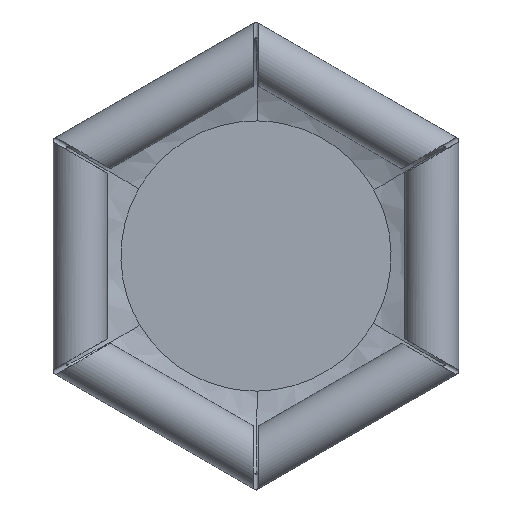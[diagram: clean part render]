
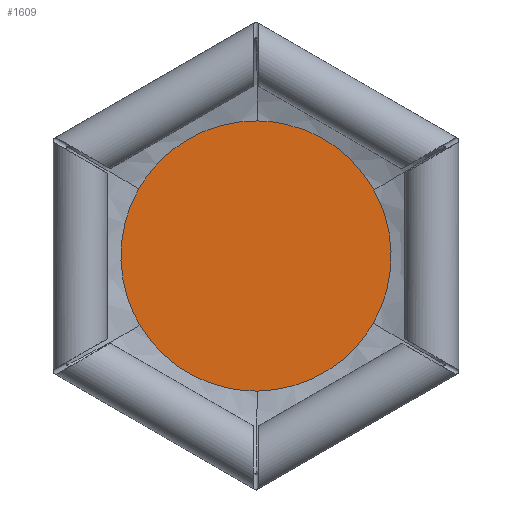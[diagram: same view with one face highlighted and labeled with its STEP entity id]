
A CAD part, left-side view. The second image highlights one B-rep face of the part: STEP entity #1609.
In plain terms, the highlighted planar face has unit normal (-1, 0, 0).
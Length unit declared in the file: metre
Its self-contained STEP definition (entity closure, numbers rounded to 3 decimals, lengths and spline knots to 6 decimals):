
#25=B_SPLINE_CURVE_WITH_KNOTS('',3,(#2890,#2891,#2892,#2893,#2894,#2895,
#2896,#2897),.UNSPECIFIED.,.F.,.F.,(4,2,2,4),(0.,0.5,0.75,1.),
 .UNSPECIFIED.);
#28=B_SPLINE_CURVE_WITH_KNOTS('',3,(#2977,#2978,#2979,#2980,#2981,#2982,
#2983,#2984),.UNSPECIFIED.,.F.,.F.,(4,2,2,4),(0.,0.5,0.75,1.),
 .UNSPECIFIED.);
#30=B_SPLINE_CURVE_WITH_KNOTS('',3,(#3051,#3052,#3053,#3054,#3055,#3056,
#3057,#3058),.UNSPECIFIED.,.F.,.F.,(4,2,2,4),(0.,0.5,0.75,1.),
 .UNSPECIFIED.);
#31=B_SPLINE_CURVE_WITH_KNOTS('',3,(#3095,#3096,#3097,#3098,#3099,#3100),
 .UNSPECIFIED.,.F.,.F.,(4,2,4),(0.,0.5,1.),.UNSPECIFIED.);
#34=B_SPLINE_CURVE_WITH_KNOTS('',3,(#3190,#3191,#3192,#3193,#3194,#3195,
#3196,#3197),.UNSPECIFIED.,.F.,.F.,(4,2,2,4),(0.,0.5,0.75,1.),
 .UNSPECIFIED.);
#35=B_SPLINE_CURVE_WITH_KNOTS('',3,(#3246,#3247,#3248,#3249,#3250,#3251,
#3252,#3253),.UNSPECIFIED.,.F.,.F.,(4,2,2,4),(0.,0.5,0.75,1.),
 .UNSPECIFIED.);
#85=PLANE('',#1769);
#830=ORIENTED_EDGE('',*,*,#1098,.T.);
#831=ORIENTED_EDGE('',*,*,#1099,.T.);
#832=ORIENTED_EDGE('',*,*,#1095,.T.);
#833=ORIENTED_EDGE('',*,*,#1089,.T.);
#834=ORIENTED_EDGE('',*,*,#1092,.T.);
#835=ORIENTED_EDGE('',*,*,#1094,.T.);
#1089=EDGE_CURVE('',#1251,#1250,#25,.T.);
#1092=EDGE_CURVE('',#1250,#1252,#28,.T.);
#1094=EDGE_CURVE('',#1252,#1253,#30,.T.);
#1095=EDGE_CURVE('',#1254,#1251,#31,.T.);
#1098=EDGE_CURVE('',#1253,#1255,#34,.T.);
#1099=EDGE_CURVE('',#1255,#1254,#35,.T.);
#1250=VERTEX_POINT('',#2889);
#1251=VERTEX_POINT('',#2898);
#1252=VERTEX_POINT('',#2976);
#1253=VERTEX_POINT('',#3050);
#1254=VERTEX_POINT('',#3101);
#1255=VERTEX_POINT('',#3189);
#1407=EDGE_LOOP('',(#830,#831,#832,#833,#834,#835));
#1493=FACE_BOUND('',#1407,.T.);
#1609=ADVANCED_FACE('',(#1493),#85,.T.);
#1769=AXIS2_PLACEMENT_3D('',#3254,#2202,#2203);
#2202=DIRECTION('',(-1.,0.,0.));
#2203=DIRECTION('',(0.,0.,-1.));
#2889=CARTESIAN_POINT('',(-0.1156,-0.030028,-0.0058));
#2890=CARTESIAN_POINT('',(-0.1156,-0.032182,-0.007079));
#2891=CARTESIAN_POINT('',(-0.1156,-0.031967,-0.006696));
#2892=CARTESIAN_POINT('',(-0.1156,-0.031654,-0.006375));
#2893=CARTESIAN_POINT('',(-0.1156,-0.031088,-0.006038));
#2894=CARTESIAN_POINT('',(-0.1156,-0.030887,-0.005952));
#2895=CARTESIAN_POINT('',(-0.1156,-0.030464,-0.005834));
#2896=CARTESIAN_POINT('',(-0.1156,-0.030248,-0.005803));
#2897=CARTESIAN_POINT('',(-0.1156,-0.030028,-0.0058));
#2898=CARTESIAN_POINT('',(-0.1156,-0.032182,-0.007079));
#2976=CARTESIAN_POINT('',(-0.1156,-0.027832,-0.007056));
#2977=CARTESIAN_POINT('',(-0.1156,-0.030028,-0.0058));
#2978=CARTESIAN_POINT('',(-0.1156,-0.029584,-0.005795));
#2979=CARTESIAN_POINT('',(-0.1156,-0.029145,-0.005909));
#2980=CARTESIAN_POINT('',(-0.1156,-0.028567,-0.00624));
#2981=CARTESIAN_POINT('',(-0.1156,-0.028391,-0.006374));
#2982=CARTESIAN_POINT('',(-0.1156,-0.028077,-0.006688));
#2983=CARTESIAN_POINT('',(-0.1156,-0.027943,-0.006862));
#2984=CARTESIAN_POINT('',(-0.1156,-0.027832,-0.007056));
#3050=CARTESIAN_POINT('',(-0.1156,-0.027854,-0.009583));
#3051=CARTESIAN_POINT('',(-0.1156,-0.027832,-0.007056));
#3052=CARTESIAN_POINT('',(-0.1156,-0.027611,-0.007441));
#3053=CARTESIAN_POINT('',(-0.1156,-0.027496,-0.007879));
#3054=CARTESIAN_POINT('',(-0.1156,-0.027502,-0.008544));
#3055=CARTESIAN_POINT('',(-0.1156,-0.027533,-0.008763));
#3056=CARTESIAN_POINT('',(-0.1156,-0.027653,-0.00919));
#3057=CARTESIAN_POINT('',(-0.1156,-0.02774,-0.009392));
#3058=CARTESIAN_POINT('',(-0.1156,-0.027854,-0.009583));
#3095=CARTESIAN_POINT('',(-0.1156,-0.032168,-0.009546));
#3096=CARTESIAN_POINT('',(-0.1156,-0.032383,-0.009171));
#3097=CARTESIAN_POINT('',(-0.1156,-0.032497,-0.008746));
#3098=CARTESIAN_POINT('',(-0.1156,-0.032502,-0.007883));
#3099=CARTESIAN_POINT('',(-0.1156,-0.032393,-0.007457));
#3100=CARTESIAN_POINT('',(-0.1156,-0.032182,-0.007079));
#3101=CARTESIAN_POINT('',(-0.1156,-0.032168,-0.009546));
#3189=CARTESIAN_POINT('',(-0.1156,-0.030019,-0.0108));
#3190=CARTESIAN_POINT('',(-0.1156,-0.027854,-0.009583));
#3191=CARTESIAN_POINT('',(-0.1156,-0.028078,-0.009957));
#3192=CARTESIAN_POINT('',(-0.1156,-0.028396,-0.010266));
#3193=CARTESIAN_POINT('',(-0.1156,-0.028964,-0.010586));
#3194=CARTESIAN_POINT('',(-0.1156,-0.029165,-0.010666));
#3195=CARTESIAN_POINT('',(-0.1156,-0.029587,-0.010775));
#3196=CARTESIAN_POINT('',(-0.1156,-0.029801,-0.010802));
#3197=CARTESIAN_POINT('',(-0.1156,-0.030019,-0.0108));
#3246=CARTESIAN_POINT('',(-0.1156,-0.030019,-0.0108));
#3247=CARTESIAN_POINT('',(-0.1156,-0.030455,-0.010797));
#3248=CARTESIAN_POINT('',(-0.1156,-0.030884,-0.010679));
#3249=CARTESIAN_POINT('',(-0.1156,-0.031449,-0.010349));
#3250=CARTESIAN_POINT('',(-0.1156,-0.03162,-0.010216));
#3251=CARTESIAN_POINT('',(-0.1156,-0.031927,-0.009907));
#3252=CARTESIAN_POINT('',(-0.1156,-0.032059,-0.009735));
#3253=CARTESIAN_POINT('',(-0.1156,-0.032168,-0.009546));
#3254=CARTESIAN_POINT('',(-0.1156,-0.03,-0.0083));
